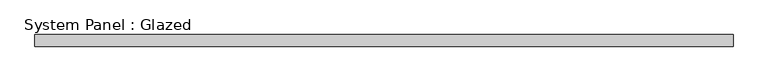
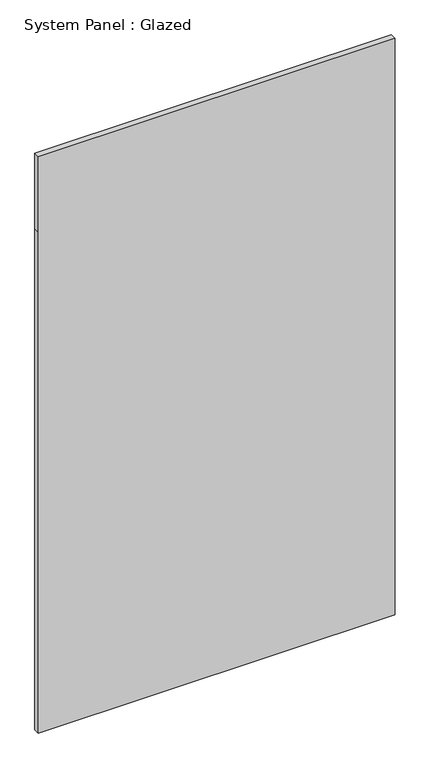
"""IFC4 building model written with IfcOpenShell, lengths in millimetres: plate geometry, System Panel : Glazed."""

from ifc_helpers import new_model, si_unit, frame, origin, place, context, project, spatial, polyline, outline, extrude, source, transform, mapped, element, save


def system_panel_glazed_45c84e56(model_context):
    return source(origin(), model_context, "Body", "SweptSolid", [
        extrude(outline(polyline([(0.0, -725.0), (0.0, 725.0), (2150.0, 725.0), (2475.0, 725.0), (2475.0, -725.0), (2150.0, -725.0), (0.0, -725.0)])), frame((0.0, 24.5, 0.0), z_axis=(0.0, 1.0, 0.0), x_axis=(0.0, 0.0, 1.0)), (0.0, 0.0, 1.0), 25.0),
    ])


if __name__ == "__main__":
    model = new_model("IFC4")
    model_context = context("Model", 3, world=origin())
    ifc_project = project(units=[si_unit("LENGTHUNIT", "METRE", prefix="MILLI")], contexts=[model_context])
    site = spatial("IfcSite", under=ifc_project)
    building = spatial("IfcBuilding", under=site)
    placement = place(None, origin())
    system_panel_glazed_shape = system_panel_glazed_45c84e56(model_context)
    element("IfcPlate", 1, ObjectType="System Panel : Glazed", at=placement, inside=building, context=model_context, shape_type="MappedRepresentation", body=[
        mapped(system_panel_glazed_shape, transform((0.0, 0.0, 0.0), x_axis=(1.0, 0.0, 0.0), y_axis=(0.0, 1.0, 0.0), z_axis=(0.0, 0.0, 1.0))),
    ])
    save(model, "model.ifc")
